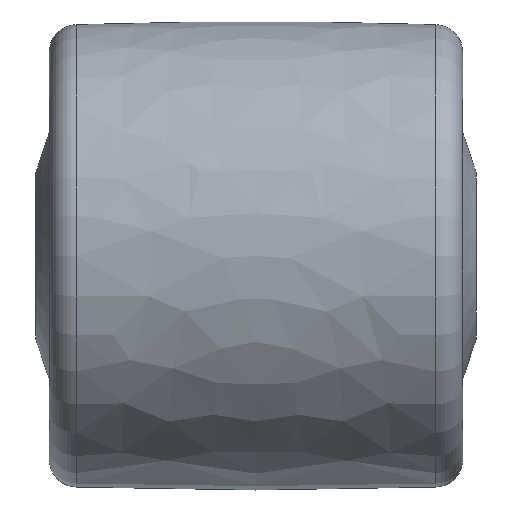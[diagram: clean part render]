
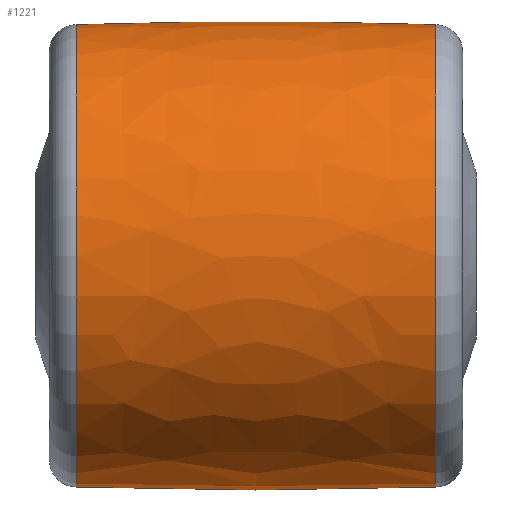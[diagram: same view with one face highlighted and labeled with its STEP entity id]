
A CAD part, front view. The second image highlights one B-rep face of the part: STEP entity #1221.
In plain terms, the highlighted free-form (B-spline) face has degree [2, 2] with [3, 9] control points.
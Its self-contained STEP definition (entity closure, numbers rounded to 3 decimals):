
#49=(
BOUNDED_SURFACE()
B_SPLINE_SURFACE(2,2,((#2152,#2153,#2154,#2155,#2156,#2157,#2158,#2159,
#2160),(#2161,#2162,#2163,#2164,#2165,#2166,#2167,#2168,#2169),(#2170,#2171,
#2172,#2173,#2174,#2175,#2176,#2177,#2178)),.UNSPECIFIED.,.F.,.T.,.F.)
B_SPLINE_SURFACE_WITH_KNOTS((3,3),(3,2,2,2,3),(-0.033,0.033),
(-3.142,-1.571,0.,1.571,3.142),
 .UNSPECIFIED.)
GEOMETRIC_REPRESENTATION_ITEM()
RATIONAL_B_SPLINE_SURFACE(((1.,0.707,1.,0.707,1.,
0.707,1.,0.707,1.),(0.999,0.707,
0.999,0.707,0.999,0.707,0.999,
0.707,0.999),(1.,0.707,1.,0.707,
1.,0.707,1.,0.707,1.)))
REPRESENTATION_ITEM('')
SURFACE()
);
#177=FACE_OUTER_BOUND('',#256,.T.);
#256=EDGE_LOOP('',(#946,#947,#948,#949,#950,#951));
#429=CIRCLE('',#1403,41.966);
#430=CIRCLE('',#1404,41.966);
#432=CIRCLE('',#1406,41.966);
#433=CIRCLE('',#1407,41.966);
#434=CIRCLE('',#1408,1000.);
#565=VERTEX_POINT('',#2147);
#566=VERTEX_POINT('',#2148);
#567=VERTEX_POINT('',#2179);
#568=VERTEX_POINT('',#2180);
#721=EDGE_CURVE('',#565,#566,#429,.T.);
#722=EDGE_CURVE('',#566,#565,#430,.T.);
#724=EDGE_CURVE('',#567,#568,#432,.T.);
#725=EDGE_CURVE('',#568,#567,#433,.T.);
#726=EDGE_CURVE('',#568,#566,#434,.T.);
#946=ORIENTED_EDGE('',*,*,#724,.F.);
#947=ORIENTED_EDGE('',*,*,#725,.F.);
#948=ORIENTED_EDGE('',*,*,#726,.T.);
#949=ORIENTED_EDGE('',*,*,#722,.T.);
#950=ORIENTED_EDGE('',*,*,#721,.T.);
#951=ORIENTED_EDGE('',*,*,#726,.F.);
#1221=ADVANCED_FACE('',(#177),#49,.F.);
#1403=AXIS2_PLACEMENT_3D('',#2149,#1698,#1699);
#1404=AXIS2_PLACEMENT_3D('',#2150,#1700,#1701);
#1406=AXIS2_PLACEMENT_3D('',#2181,#1704,#1705);
#1407=AXIS2_PLACEMENT_3D('',#2182,#1706,#1707);
#1408=AXIS2_PLACEMENT_3D('',#2183,#1708,#1709);
#1698=DIRECTION('center_axis',(1.,0.,0.));
#1699=DIRECTION('ref_axis',(0.,0.,-1.));
#1700=DIRECTION('center_axis',(1.,0.,0.));
#1701=DIRECTION('ref_axis',(0.,0.,-1.));
#1704=DIRECTION('center_axis',(1.,0.,0.));
#1705=DIRECTION('ref_axis',(0.,0.,-1.));
#1706=DIRECTION('center_axis',(1.,0.,0.));
#1707=DIRECTION('ref_axis',(0.,0.,-1.));
#1708=DIRECTION('center_axis',(0.,-1.,0.));
#1709=DIRECTION('ref_axis',(0.,0.,
1.));
#2147=CARTESIAN_POINT('',(4.837,0.,-41.966));
#2148=CARTESIAN_POINT('',(4.837,0.,41.966));
#2149=CARTESIAN_POINT('Origin',(4.837,0.,0.));
#2150=CARTESIAN_POINT('Origin',(4.837,0.,0.));
#2152=CARTESIAN_POINT('Ctrl Pts',(4.837,0.,41.966));
#2153=CARTESIAN_POINT('Ctrl Pts',(4.837,-41.966,41.966));
#2154=CARTESIAN_POINT('Ctrl Pts',(4.837,-41.966,0.));
#2155=CARTESIAN_POINT('Ctrl Pts',(4.837,-41.966,-41.966));
#2156=CARTESIAN_POINT('Ctrl Pts',(4.837,0.,-41.966));
#2157=CARTESIAN_POINT('Ctrl Pts',(4.837,41.966,-41.966));
#2158=CARTESIAN_POINT('Ctrl Pts',(4.837,41.966,0.));
#2159=CARTESIAN_POINT('Ctrl Pts',(4.837,41.966,41.966));
#2160=CARTESIAN_POINT('Ctrl Pts',(4.837,0.,41.966));
#2161=CARTESIAN_POINT('Ctrl Pts',(37.5,0.,43.034));
#2162=CARTESIAN_POINT('Ctrl Pts',(37.5,-43.034,43.034));
#2163=CARTESIAN_POINT('Ctrl Pts',(37.5,-43.034,0.));
#2164=CARTESIAN_POINT('Ctrl Pts',(37.5,-43.034,-43.034));
#2165=CARTESIAN_POINT('Ctrl Pts',(37.5,0.,-43.034));
#2166=CARTESIAN_POINT('Ctrl Pts',(37.5,43.034,-43.034));
#2167=CARTESIAN_POINT('Ctrl Pts',(37.5,43.034,0.));
#2168=CARTESIAN_POINT('Ctrl Pts',(37.5,43.034,43.034));
#2169=CARTESIAN_POINT('Ctrl Pts',(37.5,0.,43.034));
#2170=CARTESIAN_POINT('Ctrl Pts',(70.163,0.,41.966));
#2171=CARTESIAN_POINT('Ctrl Pts',(70.163,-41.966,41.966));
#2172=CARTESIAN_POINT('Ctrl Pts',(70.163,-41.966,0.));
#2173=CARTESIAN_POINT('Ctrl Pts',(70.163,-41.966,-41.966));
#2174=CARTESIAN_POINT('Ctrl Pts',(70.163,0.,-41.966));
#2175=CARTESIAN_POINT('Ctrl Pts',(70.163,41.966,-41.966));
#2176=CARTESIAN_POINT('Ctrl Pts',(70.163,41.966,0.));
#2177=CARTESIAN_POINT('Ctrl Pts',(70.163,41.966,41.966));
#2178=CARTESIAN_POINT('Ctrl Pts',(70.163,0.,41.966));
#2179=CARTESIAN_POINT('',(70.163,0.,-41.966));
#2180=CARTESIAN_POINT('',(70.163,0.,41.966));
#2181=CARTESIAN_POINT('Origin',(70.163,0.,0.));
#2182=CARTESIAN_POINT('Origin',(70.163,0.,0.));
#2183=CARTESIAN_POINT('Origin',(37.5,0.,-957.5));
